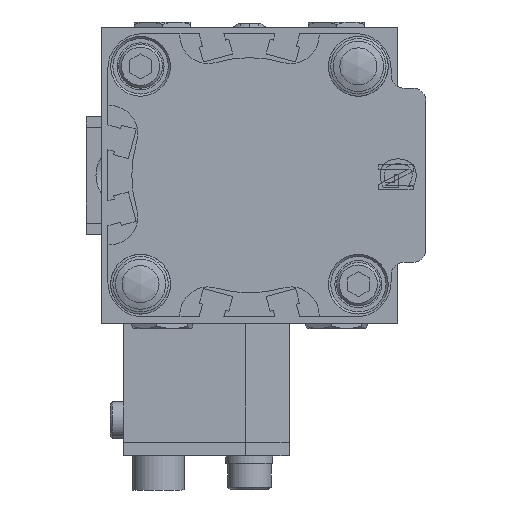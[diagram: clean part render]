
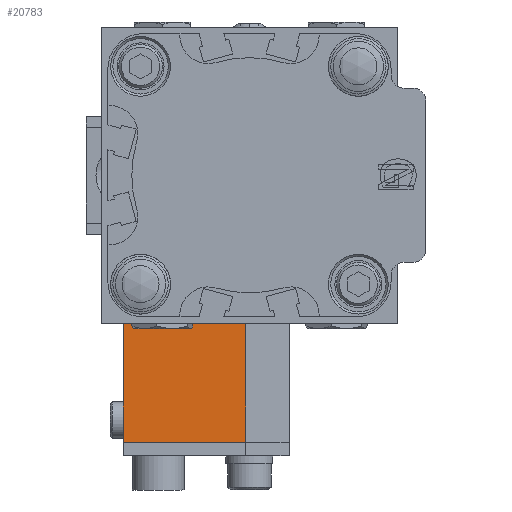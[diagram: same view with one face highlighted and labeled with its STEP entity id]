
A CAD part, left-side view. The second image highlights one B-rep face of the part: STEP entity #20783.
In plain terms, the highlighted planar face has unit normal (-1, 0, 0) as drawn and (1, 0, 0) by its records, which use the part's own axes.
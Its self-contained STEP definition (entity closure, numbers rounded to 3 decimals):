
#2259=LINE('',#33785,#3729);
#2287=LINE('',#33886,#3757);
#2290=LINE('',#33896,#3760);
#2294=LINE('',#33902,#3764);
#3729=VECTOR('',#27451,10.);
#3757=VECTOR('',#27567,10.);
#3760=VECTOR('',#27580,10.);
#3764=VECTOR('',#27586,10.);
#4786=PLANE('',#23216);
#6764=FACE_OUTER_BOUND('',#8495,.T.);
#8495=EDGE_LOOP('',(#17746,#17747,#17748,#17749));
#11062=VERTEX_POINT('',#33777);
#11065=VERTEX_POINT('',#33783);
#11094=VERTEX_POINT('',#33884);
#11096=VERTEX_POINT('',#33895);
#13417=EDGE_CURVE('',#11062,#11065,#2259,.T.);
#13464=EDGE_CURVE('',#11094,#11065,#2287,.T.);
#13468=EDGE_CURVE('',#11062,#11096,#2290,.T.);
#13472=EDGE_CURVE('',#11094,#11096,#2294,.T.);
#17746=ORIENTED_EDGE('',*,*,#13468,.F.);
#17747=ORIENTED_EDGE('',*,*,#13417,.T.);
#17748=ORIENTED_EDGE('',*,*,#13464,.F.);
#17749=ORIENTED_EDGE('',*,*,#13472,.T.);
#20783=ADVANCED_FACE('',(#6764),#4786,.T.);
#23216=AXIS2_PLACEMENT_3D('',#33912,#27600,#27601);
#27451=DIRECTION('',(0.,-1.,0.));
#27567=DIRECTION('',(0.,0.,1.));
#27580=DIRECTION('',(0.,0.,-1.));
#27586=DIRECTION('',(0.,1.,0.));
#27600=DIRECTION('center_axis',(1.,0.,0.));
#27601=DIRECTION('ref_axis',(0.,0.,-1.));
#33777=CARTESIAN_POINT('',(118.63,-3.556,31.75));
#33783=CARTESIAN_POINT('',(118.63,-31.656,31.75));
#33785=CARTESIAN_POINT('',(118.63,-31.656,31.75));
#33884=CARTESIAN_POINT('',(118.63,-31.656,0.));
#33886=CARTESIAN_POINT('',(118.63,-31.656,0.));
#33895=CARTESIAN_POINT('',(118.63,-3.556,0.));
#33896=CARTESIAN_POINT('',(118.63,-3.556,0.));
#33902=CARTESIAN_POINT('',(118.63,-31.656,0.));
#33912=CARTESIAN_POINT('Origin',(118.63,6.444,0.));
